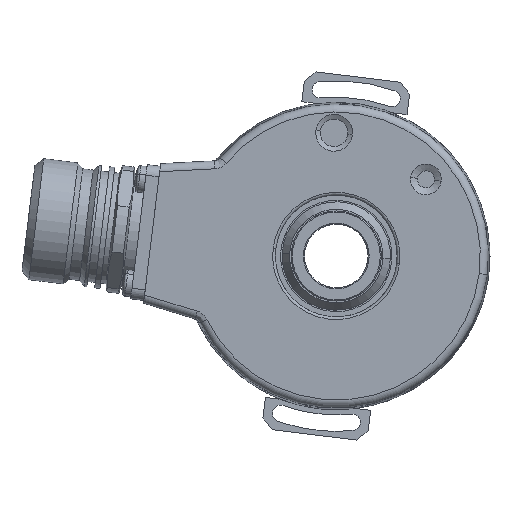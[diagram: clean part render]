
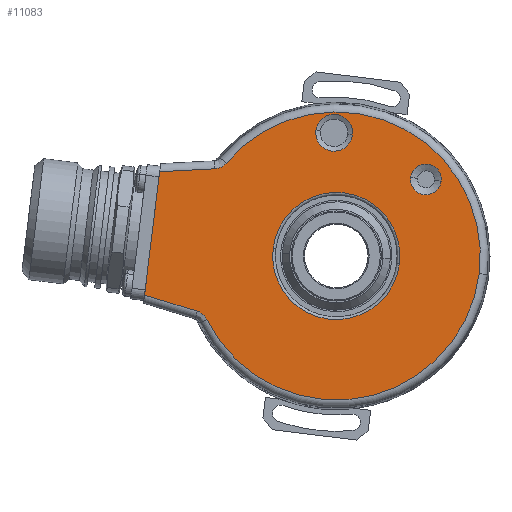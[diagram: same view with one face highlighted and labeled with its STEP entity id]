
A CAD part, left-side view. The second image highlights one B-rep face of the part: STEP entity #11083.
In plain terms, the highlighted planar face has unit normal (-1, 0, 0).
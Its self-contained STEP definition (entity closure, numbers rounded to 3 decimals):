
#5787 = DIRECTION ( 'NONE',  ( 0., -0.993, -0.122 ) ) ;
#5788 = DIRECTION ( 'NONE',  ( 1., 0., 0. ) ) ;
#5789 = CARTESIAN_POINT ( 'NONE',  ( -19., 0., 0. ) ) ;
#5790 = AXIS2_PLACEMENT_3D ( 'NONE', #5789, #5788, #5787 ) ;
#5791 = PLANE ( 'NONE',  #5790 ) ;
#9323 = VERTEX_POINT ( 'NONE', #19317 ) ;
#9327 = EDGE_CURVE ( 'NONE', #9335, #9343, #19314, .T. ) ;
#9335 = VERTEX_POINT ( 'NONE', #19334 ) ;
#9341 = VERTEX_POINT ( 'NONE', #19365 ) ;
#9343 = VERTEX_POINT ( 'NONE', #19364 ) ;
#9347 = EDGE_CURVE ( 'NONE', #9492, #9480, #19360, .T. ) ;
#9356 = ORIENTED_EDGE ( 'NONE', *, *, #9531, .F. ) ;
#9357 = ORIENTED_EDGE ( 'NONE', *, *, #9377, .T. ) ;
#9358 = ORIENTED_EDGE ( 'NONE', *, *, #9481, .T. ) ;
#9377 = EDGE_CURVE ( 'NONE', #9529, #9323, #19449, .T. ) ;
#9381 = VERTEX_POINT ( 'NONE', #19491 ) ;
#9383 = EDGE_CURVE ( 'NONE', #9550, #9381, #19489, .T. ) ;
#9385 = ORIENTED_EDGE ( 'NONE', *, *, #9327, .T. ) ;
#9386 = ORIENTED_EDGE ( 'NONE', *, *, #11015, .T. ) ;
#9387 = EDGE_LOOP ( 'NONE', ( #9388, #9389, #9390, #9392, #9356, #9357, #9358 ) ) ;
#9388 = ORIENTED_EDGE ( 'NONE', *, *, #11022, .F. ) ;
#9389 = ORIENTED_EDGE ( 'NONE', *, *, #9571, .T. ) ;
#9390 = ORIENTED_EDGE ( 'NONE', *, *, #9391, .F. ) ;
#9391 = EDGE_CURVE ( 'NONE', #9550, #9570, #19515, .T. ) ;
#9392 = ORIENTED_EDGE ( 'NONE', *, *, #9383, .T. ) ;
#9393 = ORIENTED_EDGE ( 'NONE', *, *, #9582, .T. ) ;
#9394 = ORIENTED_EDGE ( 'NONE', *, *, #11082, .T. ) ;
#9395 = EDGE_LOOP ( 'NONE', ( #9451, #9452 ) ) ;
#9451 = ORIENTED_EDGE ( 'NONE', *, *, #9489, .T. ) ;
#9452 = ORIENTED_EDGE ( 'NONE', *, *, #9347, .T. ) ;
#9453 = EDGE_LOOP ( 'NONE', ( #9385, #9386 ) ) ;
#9473 = VERTEX_POINT ( 'NONE', #19763 ) ;
#9480 = VERTEX_POINT ( 'NONE', #19811 ) ;
#9481 = EDGE_CURVE ( 'NONE', #9323, #9341, #19810, .T. ) ;
#9489 = EDGE_CURVE ( 'NONE', #9480, #9492, #19836, .T. ) ;
#9492 = VERTEX_POINT ( 'NONE', #19826 ) ;
#9529 = VERTEX_POINT ( 'NONE', #19979 ) ;
#9531 = EDGE_CURVE ( 'NONE', #9529, #9381, #19978, .T. ) ;
#9550 = VERTEX_POINT ( 'NONE', #20066 ) ;
#9570 = VERTEX_POINT ( 'NONE', #20078 ) ;
#9571 = EDGE_CURVE ( 'NONE', #9473, #9570, #20077, .T. ) ;
#9579 = VERTEX_POINT ( 'NONE', #20099 ) ;
#9580 = VERTEX_POINT ( 'NONE', #20098 ) ;
#9582 = EDGE_CURVE ( 'NONE', #9580, #9579, #20151, .T. ) ;
#11015 = EDGE_CURVE ( 'NONE', #9343, #9335, #20325, .T. ) ;
#11022 = EDGE_CURVE ( 'NONE', #9473, #9341, #20319, .T. ) ;
#11082 = EDGE_CURVE ( 'NONE', #9579, #9580, #20490, .T. ) ;
#11083 = ADVANCED_FACE ( 'NONE', ( #20485, #20484, #20483, #20482 ), #5791, .F. ) ;
#11084 = EDGE_LOOP ( 'NONE', ( #9393, #9394 ) ) ;
#19310 = DIRECTION ( 'NONE',  ( 0., -0.993, -0.122 ) ) ;
#19311 = DIRECTION ( 'NONE',  ( 1., 0., 0. ) ) ;
#19312 = CARTESIAN_POINT ( 'NONE',  ( -19., 0., 0. ) ) ;
#19313 = AXIS2_PLACEMENT_3D ( 'NONE', #19312, #19311, #19310 ) ;
#19314 = CIRCLE ( 'NONE', #19313, 12. ) ;
#19317 = CARTESIAN_POINT ( 'NONE',  ( -19., -26.97, -3.312 ) ) ;
#19334 = CARTESIAN_POINT ( 'NONE',  ( -19., -11.911, -1.462 ) ) ;
#19356 = DIRECTION ( 'NONE',  ( 0., -0.993, -0.122 ) ) ;
#19357 = DIRECTION ( 'NONE',  ( 1., 0., 0. ) ) ;
#19358 = CARTESIAN_POINT ( 'NONE',  ( -19., 0.406, 23.246 ) ) ;
#19359 = AXIS2_PLACEMENT_3D ( 'NONE', #19358, #19357, #19356 ) ;
#19360 = CIRCLE ( 'NONE', #19359, 3.466 ) ;
#19364 = CARTESIAN_POINT ( 'NONE',  ( -19., 11.911, 1.462 ) ) ;
#19365 = CARTESIAN_POINT ( 'NONE',  ( -19., 20.777, 17.512 ) ) ;
#19445 = DIRECTION ( 'NONE',  ( 0., -0.993, -0.122 ) ) ;
#19446 = DIRECTION ( 'NONE',  ( -1., 0., 0. ) ) ;
#19447 = CARTESIAN_POINT ( 'NONE',  ( -19., 0., 0. ) ) ;
#19448 = AXIS2_PLACEMENT_3D ( 'NONE', #19447, #19446, #19445 ) ;
#19449 = CIRCLE ( 'NONE', #19448, 27.173 ) ;
#19486 = DIRECTION ( 'NONE',  ( 0., -0.956, -0.292 ) ) ;
#19487 = VECTOR ( 'NONE', #19486, 1000. ) ;
#19488 = CARTESIAN_POINT ( 'NONE',  ( -19., 25.556, -10.618 ) ) ;
#19489 = LINE ( 'NONE', #19488, #19487 ) ;
#19491 = CARTESIAN_POINT ( 'NONE',  ( -19., 26.213, -10.418 ) ) ;
#19506 = DIRECTION ( 'NONE',  ( 0., -0.122, 0.993 ) ) ;
#19507 = VECTOR ( 'NONE', #19506, 1000. ) ;
#19508 = CARTESIAN_POINT ( 'NONE',  ( -19., 36.354, -8.886 ) ) ;
#19515 = LINE ( 'NONE', #19508, #19507 ) ;
#19763 = CARTESIAN_POINT ( 'NONE',  ( -19., 22.914, 16.45 ) ) ;
#19806 = DIRECTION ( 'NONE',  ( 0., -0.993, -0.122 ) ) ;
#19807 = DIRECTION ( 'NONE',  ( -1., 0., 0. ) ) ;
#19808 = CARTESIAN_POINT ( 'NONE',  ( -19., 0., 0. ) ) ;
#19809 = AXIS2_PLACEMENT_3D ( 'NONE', #19808, #19807, #19806 ) ;
#19810 = CIRCLE ( 'NONE', #19809, 27.173 ) ;
#19811 = CARTESIAN_POINT ( 'NONE',  ( -19., 3.846, 23.669 ) ) ;
#19826 = CARTESIAN_POINT ( 'NONE',  ( -19., -3.034, 22.824 ) ) ;
#19832 = DIRECTION ( 'NONE',  ( 0., -0.993, -0.122 ) ) ;
#19833 = DIRECTION ( 'NONE',  ( 1., 0., 0. ) ) ;
#19834 = CARTESIAN_POINT ( 'NONE',  ( -19., 0.406, 23.246 ) ) ;
#19835 = AXIS2_PLACEMENT_3D ( 'NONE', #19834, #19833, #19832 ) ;
#19836 = CIRCLE ( 'NONE', #19835, 3.466 ) ;
#19978 = B_SPLINE_CURVE_WITH_KNOTS ( 'NONE', 3,
 ( #20030, #20029, #20028, #20027, #20026, #20025, #20024, #20023, #20022, #20021 ),
 .UNSPECIFIED., .F., .F.,
 ( 4, 2, 2, 2, 4 ),
 ( 0., 0.001, 0.001, 0.002, 0.002 ),
 .UNSPECIFIED. ) ;
#19979 = CARTESIAN_POINT ( 'NONE',  ( -19., 24.396, -11.966 ) ) ;
#20021 = CARTESIAN_POINT ( 'NONE',  ( -19., 26.213, -10.418 ) ) ;
#20022 = CARTESIAN_POINT ( 'NONE',  ( -19., 26.016, -10.478 ) ) ;
#20023 = CARTESIAN_POINT ( 'NONE',  ( -19., 25.828, -10.557 ) ) ;
#20024 = CARTESIAN_POINT ( 'NONE',  ( -19., 25.471, -10.753 ) ) ;
#20025 = CARTESIAN_POINT ( 'NONE',  ( -19., 25.3, -10.87 ) ) ;
#20026 = CARTESIAN_POINT ( 'NONE',  ( -19., 24.989, -11.135 ) ) ;
#20027 = CARTESIAN_POINT ( 'NONE',  ( -19., 24.848, -11.282 ) ) ;
#20028 = CARTESIAN_POINT ( 'NONE',  ( -19., 24.597, -11.605 ) ) ;
#20029 = CARTESIAN_POINT ( 'NONE',  ( -19., 24.487, -11.781 ) ) ;
#20030 = CARTESIAN_POINT ( 'NONE',  ( -19., 24.396, -11.966 ) ) ;
#20066 = CARTESIAN_POINT ( 'NONE',  ( -19., 36.168, -7.374 ) ) ;
#20077 = LINE ( 'NONE', #20117, #20116 ) ;
#20078 = CARTESIAN_POINT ( 'NONE',  ( -19., 33.31, 15.905 ) ) ;
#20098 = CARTESIAN_POINT ( 'NONE',  ( -19., -14.042, 14.804 ) ) ;
#20099 = CARTESIAN_POINT ( 'NONE',  ( -19., -19.796, 14.097 ) ) ;
#20115 = DIRECTION ( 'NONE',  ( 0., 0.999, -0.052 ) ) ;
#20116 = VECTOR ( 'NONE', #20115, 1000. ) ;
#20117 = CARTESIAN_POINT ( 'NONE',  ( -19., 33.046, 15.919 ) ) ;
#20147 = DIRECTION ( 'NONE',  ( 0., -0.993, -0.122 ) ) ;
#20148 = DIRECTION ( 'NONE',  ( 1., 0., 0. ) ) ;
#20149 = CARTESIAN_POINT ( 'NONE',  ( -19., -16.919, 14.45 ) ) ;
#20150 = AXIS2_PLACEMENT_3D ( 'NONE', #20149, #20148, #20147 ) ;
#20151 = CIRCLE ( 'NONE', #20150, 2.899 ) ;
#20307 = CARTESIAN_POINT ( 'NONE',  ( -19., 20.777, 17.512 ) ) ;
#20308 = CARTESIAN_POINT ( 'NONE',  ( -19., 20.91, 17.355 ) ) ;
#20309 = CARTESIAN_POINT ( 'NONE',  ( -19., 21.056, 17.213 ) ) ;
#20310 = CARTESIAN_POINT ( 'NONE',  ( -19., 21.376, 16.962 ) ) ;
#20311 = CARTESIAN_POINT ( 'NONE',  ( -19., 21.552, 16.851 ) ) ;
#20312 = CARTESIAN_POINT ( 'NONE',  ( -19., 21.917, 16.669 ) ) ;
#20313 = CARTESIAN_POINT ( 'NONE',  ( -19., 22.108, 16.597 ) ) ;
#20314 = CARTESIAN_POINT ( 'NONE',  ( -19., 22.503, 16.493 ) ) ;
#20315 = CARTESIAN_POINT ( 'NONE',  ( -19., 22.708, 16.461 ) ) ;
#20316 = CARTESIAN_POINT ( 'NONE',  ( -19., 22.914, 16.45 ) ) ;
#20319 = B_SPLINE_CURVE_WITH_KNOTS ( 'NONE', 3,
 ( #20316, #20315, #20314, #20313, #20312, #20311, #20310, #20309, #20308, #20307 ),
 .UNSPECIFIED., .F., .F.,
 ( 4, 2, 2, 2, 4 ),
 ( 0., 0.001, 0.001, 0.002, 0.002 ),
 .UNSPECIFIED. ) ;
#20321 = DIRECTION ( 'NONE',  ( 0., -0.993, -0.122 ) ) ;
#20322 = DIRECTION ( 'NONE',  ( 1., 0., 0. ) ) ;
#20323 = CARTESIAN_POINT ( 'NONE',  ( -19., 0., 0. ) ) ;
#20324 = AXIS2_PLACEMENT_3D ( 'NONE', #20323, #20322, #20321 ) ;
#20325 = CIRCLE ( 'NONE', #20324, 12. ) ;
#20482 = FACE_OUTER_BOUND ( 'NONE', #9387, .T. ) ;
#20483 = FACE_BOUND ( 'NONE', #9453, .T. ) ;
#20484 = FACE_BOUND ( 'NONE', #9395, .T. ) ;
#20485 = FACE_BOUND ( 'NONE', #11084, .T. ) ;
#20486 = DIRECTION ( 'NONE',  ( 0., -0.993, -0.122 ) ) ;
#20487 = DIRECTION ( 'NONE',  ( 1., 0., 0. ) ) ;
#20488 = CARTESIAN_POINT ( 'NONE',  ( -19., -16.919, 14.45 ) ) ;
#20489 = AXIS2_PLACEMENT_3D ( 'NONE', #20488, #20487, #20486 ) ;
#20490 = CIRCLE ( 'NONE', #20489, 2.899 ) ;
